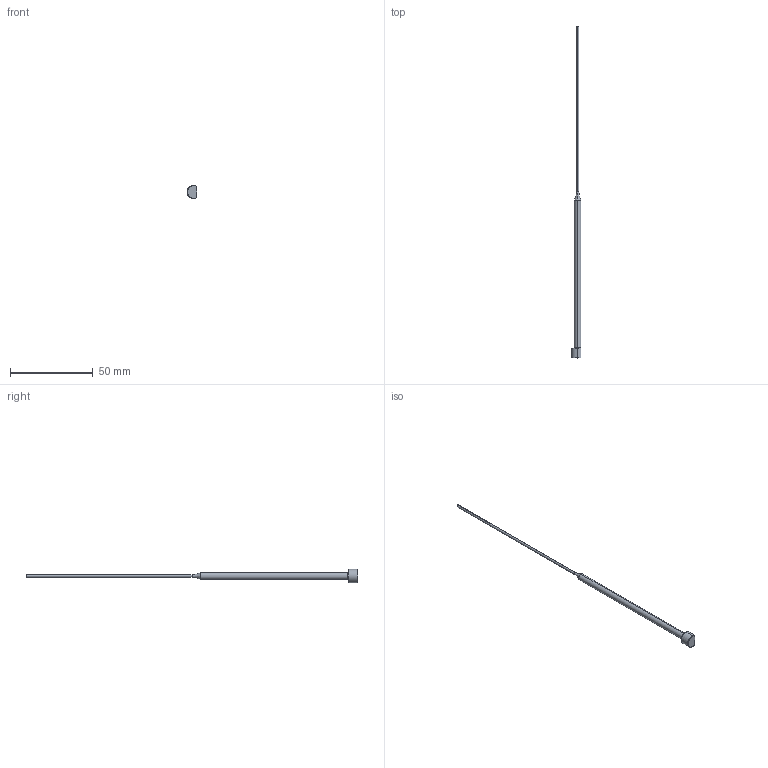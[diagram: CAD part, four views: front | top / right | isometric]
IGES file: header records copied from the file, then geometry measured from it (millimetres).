
Start section: SolidWorks IGES file using analytic representation for surfaces
Global section: file name: C:\Users\365admin\AppData\Local\Temp\InFlowConvert3DWorking\EPJ015X4L200-100-K.igs; native system: SolidWorks 2019; preprocessor: SolidWorks 2019; author: 365admin; date: 220405.110632; units: millimetre
Bounding box: 6 x 200 x 8 mm (x, y, z)
Surface area: 1835.9 mm2 (no closed solid volume)
Topology: 0 solids, 0 shells, 22 faces, 185 edges, 185 vertices
Faces by surface type: revolution 13, bspline 9
